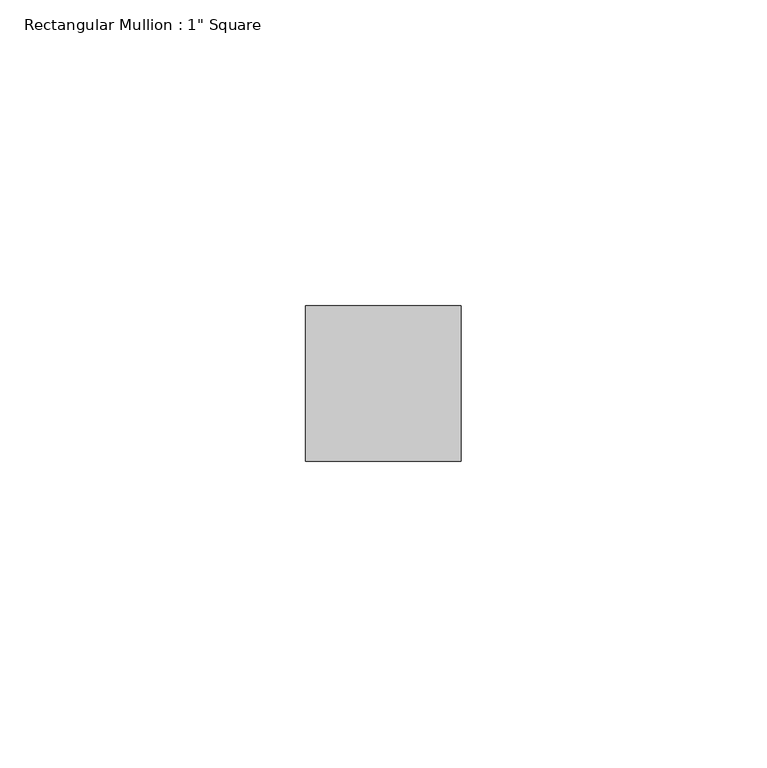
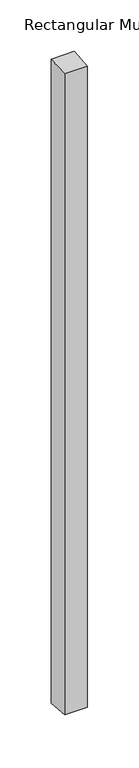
"""IFC4 building model written with IfcOpenShell, lengths in millimetres: member geometry."""

import ifcopenshell
import ifcopenshell.guid

model = None  # the IFC model being written
_history = None  # IfcOwnerHistory: only IFC2X3 demands one
_inside = {}  # id of a spatial element -> (the spatial element, [elements in it])
_under = {}  # id of a project, library or spatial element -> (it, [spatial elements below it])
_declared = {}  # id of a project -> (the project, [libraries it declares])
_typed = {}  # id of a type object -> (the type object, [elements of that type])
_made_of = {}  # id of a material, layer set ... -> (it, [elements and type objects made of it])


def new_model(schema):
    """Start an empty IFC model of exactly this schema.

    Asked for "IFC4X3", IfcOpenShell would pick the latest addendum, in which some entities
    have other attributes; the version numbers below select the first issue.
    IFC2X3 requires an IfcOwnerHistory on every rooted entity: one is made here for all.
    """
    global model, _history
    if schema == "IFC4X3":
        model = ifcopenshell.file(schema_version=(4, 3, 0, 0))
    else:
        model = ifcopenshell.file(schema=schema)
    _inside.clear()
    _under.clear()
    _declared.clear()
    _typed.clear()
    _made_of.clear()
    _history = None
    if model.schema == "IFC2X3":
        org = make("IfcOrganization", Name="unknown")
        user = make(
            "IfcPersonAndOrganization",
            ThePerson=make("IfcPerson", FamilyName="unknown"),
            TheOrganization=org,
        )
        app = make(
            "IfcApplication",
            ApplicationDeveloper=org,
            Version="unknown",
            ApplicationFullName="unknown",
            ApplicationIdentifier="unknown",
        )
        _history = make(
            "IfcOwnerHistory",
            OwningUser=user,
            OwningApplication=app,
            ChangeAction="ADDED",
            CreationDate=0,
        )
    return model


def make(cls, **values):
    """One entity of the class cls with the attributes given. An attribute that is None is left unset."""
    return model.create_entity(
        cls, **{name: value for name, value in values.items() if value is not None}
    )


def rooted(cls, **values):
    """An entity with a GlobalId (a new one), such as an element, a storey or a relation."""
    return make(cls, GlobalId=ifcopenshell.guid.new(), OwnerHistory=_history, **values)


def si_unit(unit_type, name, prefix=None):
    """IfcSIUnit, for example si_unit("LENGTHUNIT", "METRE", prefix="MILLI")."""
    return make("IfcSIUnit", UnitType=unit_type, Prefix=prefix, Name=name)


def assignment(units):
    """IfcUnitAssignment: the units of a project."""
    return None if units is None else make("IfcUnitAssignment", Units=units)


def point(xyz):
    """IfcCartesianPoint."""
    return None if xyz is None else make("IfcCartesianPoint", Coordinates=xyz)


def direction(xyz):
    """IfcDirection."""
    return None if xyz is None else make("IfcDirection", DirectionRatios=xyz)


def frame(location, z_axis=None, x_axis=None):
    """IfcAxis2Placement3D, a coordinate frame: its origin and axes. An axis left out is left unset."""
    return make(
        "IfcAxis2Placement3D",
        Location=point(location),
        Axis=direction(z_axis),
        RefDirection=direction(x_axis),
    )


def origin():
    """The frame at (0, 0, 0) with its axes left unset."""
    return frame((0.0, 0.0, 0.0))


def place(relative_to, where):
    """IfcLocalPlacement: puts the frame where relative to a parent placement (None: the world)."""
    return make(
        "IfcLocalPlacement", PlacementRelTo=relative_to, RelativePlacement=where
    )


def context(
    kind, dimensions, precision=None, world=None, true_north=None, identifier=None
):
    """IfcGeometricRepresentationContext, for example the 3D "Model" context."""
    return make(
        "IfcGeometricRepresentationContext",
        ContextIdentifier=identifier,
        ContextType=kind,
        CoordinateSpaceDimension=dimensions,
        Precision=precision,
        WorldCoordinateSystem=world,
        TrueNorth=true_north,
    )


def project(units=None, contexts=None):
    """IfcProject with its units and contexts."""
    return rooted(
        "IfcProject",
        Name="project",
        RepresentationContexts=contexts,
        UnitsInContext=assignment(units),
    )


def spatial(cls, under=None, at=None, **own):
    """A site, building, storey or space (cls), placed at a placement, below another one or the project."""
    s = rooted(cls, ObjectPlacement=at, **own)
    if under is not None:
        _under.setdefault(under.id(), (under, []))[1].append(s)
    return s


def faces_of(points, faces, orient=None, outer=None):
    """IfcFace entities. A face is a list of loops; a loop is a list of indices into points, from 0.

    orient and outer hold one flag for each loop. By default every Orientation is true, the
    first loop of a face is its IfcFaceOuterBound and the others are IfcFaceBound.
    """
    made = []
    for i, loops in enumerate(faces):
        bounds = []
        for j, loop in enumerate(loops):
            is_outer = j == 0 if outer is None else outer[i][j]
            bounds.append(
                make(
                    "IfcFaceOuterBound" if is_outer else "IfcFaceBound",
                    Bound=make("IfcPolyLoop", Polygon=[points[k] for k in loop]),
                    Orientation=True if orient is None else orient[i][j],
                )
            )
        made.append(make("IfcFace", Bounds=bounds))
    return made


def faceted_brep(points, faces, orient=None, outer=None, voids=None):
    """IfcFacetedBrep: a solid bounded by flat faces; with voids (closed shells), ...WithVoids."""
    shared = [point(p) for p in points]
    hull = make("IfcClosedShell", CfsFaces=faces_of(shared, faces, orient, outer))
    if voids is None:
        return make("IfcFacetedBrep", Outer=hull)
    return make(
        "IfcFacetedBrepWithVoids",
        Outer=hull,
        Voids=[
            make(cls, CfsFaces=faces_of(shared, fs, o, b)) for cls, fs, o, b in voids
        ],
    )


def shape(context_of_items, identifier, shape_type, items):
    """IfcShapeRepresentation: the items that make up one representation, for example the "Body"."""
    return make(
        "IfcShapeRepresentation",
        ContextOfItems=context_of_items,
        RepresentationIdentifier=identifier,
        RepresentationType=shape_type,
        Items=items,
    )


def source(mapping_origin, context_of_items, identifier, shape_type, items):
    """IfcRepresentationMap: a shape defined once, which mapped items show again and again."""
    return make(
        "IfcRepresentationMap",
        MappingOrigin=mapping_origin,
        MappedRepresentation=shape(context_of_items, identifier, shape_type, items),
    )


def transform(
    local_origin,
    x_axis=None,
    y_axis=None,
    z_axis=None,
    scale=None,
    scale2=None,
    scale3=None,
    uniform=True,
):
    """IfcCartesianTransformationOperator3D, or its non-uniform kind. x_axis, y_axis, z_axis: its Axis1, 2, 3."""
    if uniform:
        return make(
            "IfcCartesianTransformationOperator3D",
            Axis1=direction(x_axis),
            Axis2=direction(y_axis),
            LocalOrigin=point(local_origin),
            Scale=scale,
            Axis3=direction(z_axis),
        )
    return make(
        "IfcCartesianTransformationOperator3DnonUniform",
        Axis1=direction(x_axis),
        Axis2=direction(y_axis),
        LocalOrigin=point(local_origin),
        Scale=scale,
        Axis3=direction(z_axis),
        Scale2=scale2,
        Scale3=scale3,
    )


def mapped(mapping_source, mapping_target):
    """IfcMappedItem: shows the shape of a source again, moved by a transform."""
    return make(
        "IfcMappedItem", MappingSource=mapping_source, MappingTarget=mapping_target
    )


def made_of(thing, what):
    """Note that an element or type object is made of a material, layer set ...; save() writes the relation."""
    if what is not None:
        _made_of.setdefault(what.id(), (what, []))[1].append(thing)
    return thing


def element(
    cls,
    number,
    at=None,
    inside=None,
    cuts=None,
    type_object=None,
    material=None,
    context=None,
    identifier="Body",
    shape_type=None,
    held_by="IfcProductDefinitionShape",
    body=None,
    shapes=None,
    **own,
):
    """One element of the class cls, such as IfcWall. Its Tag is "e" and its number.

    at: its placement. inside: the storey or other place that contains it. cuts: it is an
    opening in that element (IfcRelVoidsElement). A single representation is given by context,
    identifier, shape_type and body (its items); several are given by shapes. held_by: the class
    of the entity that holds the representations. save() writes the other relations.
    """
    e = rooted(cls, Tag="e%d" % number, ObjectPlacement=at, **own)
    if body is not None:
        shapes = [shape(context, identifier, shape_type, body)]
    if shapes is not None:
        e.Representation = make(held_by, Representations=shapes)
    if inside is not None:
        _inside.setdefault(inside.id(), (inside, []))[1].append(e)
    if cuts is not None:
        rooted(
            "IfcRelVoidsElement", RelatingBuildingElement=cuts, RelatedOpeningElement=e
        )
    if type_object is not None:
        _typed.setdefault(type_object.id(), (type_object, []))[1].append(e)
    return made_of(e, material)


def aggregate(whole, parts):
    """IfcRelAggregates: a whole, such as a stair, and the parts it consists of."""
    return rooted("IfcRelAggregates", RelatingObject=whole, RelatedObjects=parts)


def save(model, path):
    """Write the relations noted so far, then the file.

    IfcRelAggregates (storeys below a building ...), IfcRelContainedInSpatialStructure (elements
    in a storey), IfcRelDefinesByType, IfcRelAssociatesMaterial and IfcRelDeclares: one each for
    every whole, place, type object, material and project.
    """
    for whole, parts in _under.values():
        aggregate(whole, parts)
    for where, things in _inside.values():
        rooted(
            "IfcRelContainedInSpatialStructure",
            RelatedElements=things,
            RelatingStructure=where,
        )
    for kind, things in _typed.values():
        rooted("IfcRelDefinesByType", RelatedObjects=things, RelatingType=kind)
    for what, things in _made_of.values():
        rooted("IfcRelAssociatesMaterial", RelatedObjects=things, RelatingMaterial=what)
    for by, libraries in _declared.values():
        rooted("IfcRelDeclares", RelatingContext=by, RelatedDefinitions=libraries)
    model.write(path)


def member_0ec1a058(model_context):
    return source(origin(), model_context, "Body", "Brep", [
        faceted_brep([(-25.4, 12.7, 0.872662), (0.0, 12.7, 1.0579776), (0.0, 12.7, -763.0579776), (-25.4, 12.7, -762.872662), (-25.4, -12.7, -1.2432933), (-25.4, -12.7, -760.7567067), (0.0, -12.7, -1.0579776), (0.0, -12.7, -760.9420224)], [[[0, 1, 2, 3]], [[4, 0, 3, 5]], [[6, 4, 5, 7]], [[1, 6, 7, 2]], [[1, 0, 4, 6]], [[2, 7, 5, 3]]]),
    ])


if __name__ == "__main__":
    model = new_model("IFC4")
    model_context = context("Model", 3, world=origin())
    ifc_project = project(units=[si_unit("LENGTHUNIT", "METRE", prefix="MILLI")], contexts=[model_context])
    site = spatial("IfcSite", under=ifc_project)
    building = spatial("IfcBuilding", under=site)
    placement = place(None, origin())
    member_shape = member_0ec1a058(model_context)
    element("IfcMember", 1, ObjectType="Rectangular Mullion : 1\" Square", at=placement, inside=building, context=model_context, shape_type="MappedRepresentation", body=[
        mapped(member_shape, transform((0.0, 0.0, 0.0), x_axis=(1.0, 0.0, 0.0), y_axis=(0.0, 1.0, 0.0), z_axis=(0.0, 0.0, 1.0))),
    ])
    save(model, "model.ifc")
